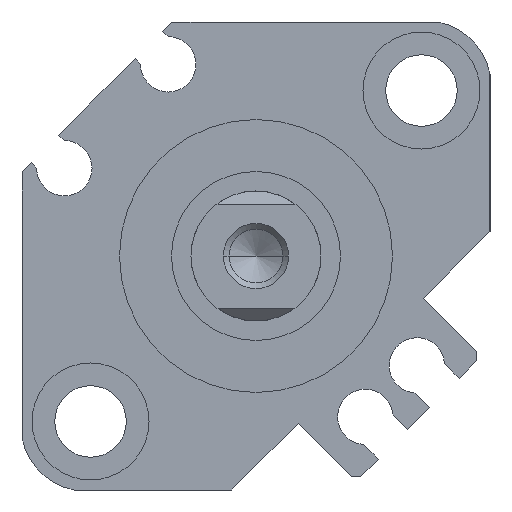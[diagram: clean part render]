
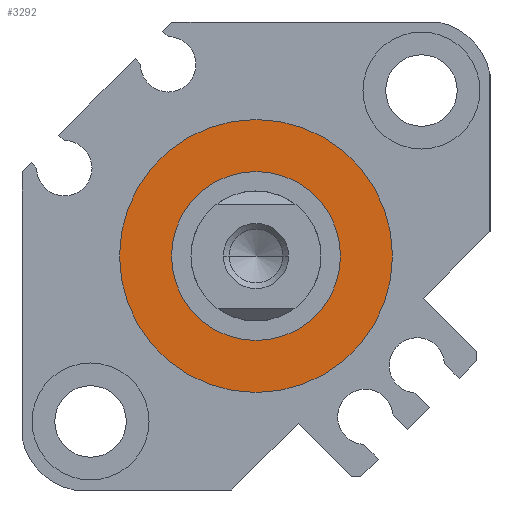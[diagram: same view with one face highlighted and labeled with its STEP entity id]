
A CAD part, left-side view. The second image highlights one B-rep face of the part: STEP entity #3292.
In plain terms, the highlighted planar face has unit normal (-1, 0, 0).
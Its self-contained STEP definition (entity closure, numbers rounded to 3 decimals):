
#14 = CARTESIAN_POINT ( 'NONE',  ( 1.6, 0., -6.5 ) ) ;
#141 = AXIS2_PLACEMENT_3D ( 'NONE', #197, #3134, #2314 ) ;
#197 = CARTESIAN_POINT ( 'NONE',  ( 1.6, 0., 0. ) ) ;
#347 = EDGE_LOOP ( 'NONE', ( #2342, #813 ) ) ;
#355 = DIRECTION ( 'NONE',  ( 1., 0., 0. ) ) ;
#492 = DIRECTION ( 'NONE',  ( 0., 0., -1. ) ) ;
#501 = CARTESIAN_POINT ( 'NONE',  ( 1.6, 0., 0. ) ) ;
#813 = ORIENTED_EDGE ( 'NONE', *, *, #2453, .T. ) ;
#867 = VERTEX_POINT ( 'NONE', #2341 ) ;
#1214 = CARTESIAN_POINT ( 'NONE',  ( 1.6, 0., 0. ) ) ;
#1290 = FACE_OUTER_BOUND ( 'NONE', #1919, .T. ) ;
#1300 = DIRECTION ( 'NONE',  ( 0., 0., -1. ) ) ;
#1308 = AXIS2_PLACEMENT_3D ( 'NONE', #1214, #3352, #2331 ) ;
#1412 = CIRCLE ( 'NONE', #3230, 10.5 ) ;
#1413 = DIRECTION ( 'NONE',  ( 0., 0., -1. ) ) ;
#1602 = DIRECTION ( 'NONE',  ( 1., 0., 0. ) ) ;
#1703 = AXIS2_PLACEMENT_3D ( 'NONE', #2721, #355, #1413 ) ;
#1854 = CIRCLE ( 'NONE', #1308, 6.5 ) ;
#1919 = EDGE_LOOP ( 'NONE', ( #2001, #2533 ) ) ;
#1981 = CARTESIAN_POINT ( 'NONE',  ( 1.6, 0., 10.5 ) ) ;
#1988 = VERTEX_POINT ( 'NONE', #1981 ) ;
#2001 = ORIENTED_EDGE ( 'NONE', *, *, #2179, .F. ) ;
#2034 = CIRCLE ( 'NONE', #1703, 10.5 ) ;
#2049 = PLANE ( 'NONE',  #141 ) ;
#2061 = CARTESIAN_POINT ( 'NONE',  ( 1.6, 0., 0. ) ) ;
#2179 = EDGE_CURVE ( 'NONE', #1988, #867, #1412, .T. ) ;
#2263 = VERTEX_POINT ( 'NONE', #14 ) ;
#2314 = DIRECTION ( 'NONE',  ( 0., 1., 0. ) ) ;
#2331 = DIRECTION ( 'NONE',  ( 0., 0., -1. ) ) ;
#2341 = CARTESIAN_POINT ( 'NONE',  ( 1.6, 0., -10.5 ) ) ;
#2342 = ORIENTED_EDGE ( 'NONE', *, *, #2942, .T. ) ;
#2453 = EDGE_CURVE ( 'NONE', #2263, #3276, #1854, .T. ) ;
#2533 = ORIENTED_EDGE ( 'NONE', *, *, #2750, .F. ) ;
#2721 = CARTESIAN_POINT ( 'NONE',  ( 1.6, 0., 0. ) ) ;
#2750 = EDGE_CURVE ( 'NONE', #867, #1988, #2034, .T. ) ;
#2942 = EDGE_CURVE ( 'NONE', #3276, #2263, #3078, .T. ) ;
#3078 = CIRCLE ( 'NONE', #3246, 6.5 ) ;
#3088 = FACE_BOUND ( 'NONE', #347, .T. ) ;
#3134 = DIRECTION ( 'NONE',  ( 1., 0., 0. ) ) ;
#3230 = AXIS2_PLACEMENT_3D ( 'NONE', #501, #3378, #1300 ) ;
#3246 = AXIS2_PLACEMENT_3D ( 'NONE', #2061, #1602, #492 ) ;
#3276 = VERTEX_POINT ( 'NONE', #3350 ) ;
#3292 = ADVANCED_FACE ( 'NONE', ( #1290, #3088 ), #2049, .F. ) ;
#3350 = CARTESIAN_POINT ( 'NONE',  ( 1.6, 0., 6.5 ) ) ;
#3352 = DIRECTION ( 'NONE',  ( 1., 0., 0. ) ) ;
#3378 = DIRECTION ( 'NONE',  ( 1., 0., 0. ) ) ;
